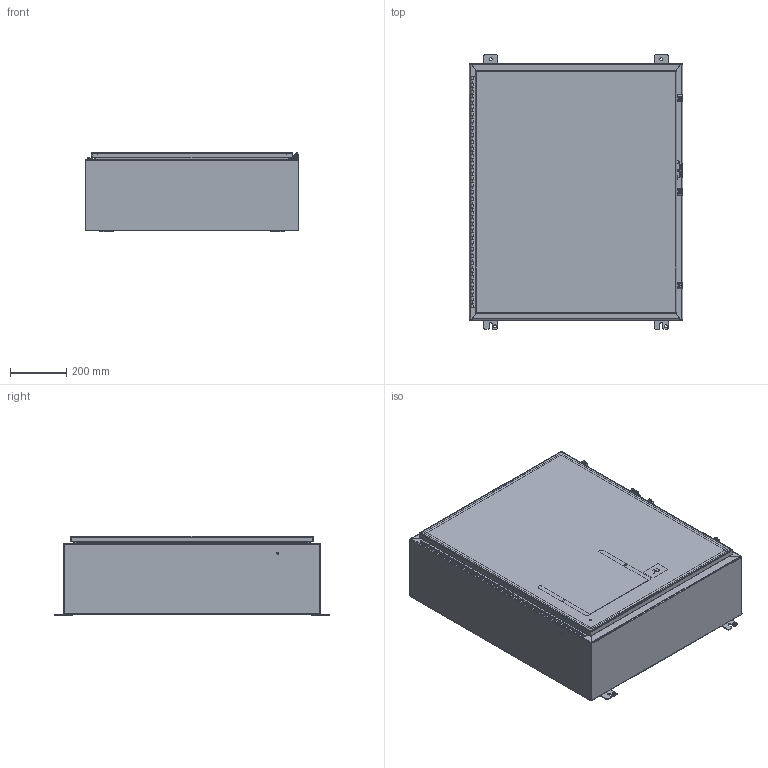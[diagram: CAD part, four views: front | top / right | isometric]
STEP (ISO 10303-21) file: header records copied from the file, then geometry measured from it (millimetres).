
FILE_DESCRIPTION((''),'2;1');
FILE_NAME('MODEL-303_ASM','2026-04-07T14:18:24',('ChadS'),('SAGINAW CONTROL & ENGINEERING'),'CREO PARAMETRIC BY PTC INC, 2021284','CREO PARAMETRIC BY PTC INC, 2021284','');
FILE_SCHEMA(('AUTOMOTIVE_DESIGN { 1 0 10303 214 1 1 1 1 }'));
Length unit declared in the file: inch
Products named in the file (30): MODEL-303-BDY; MODEL-303-TP; MODEL-303-BTM; MODEL-303-DR; 100837; 100882; 111267; 125597; 118921_DR; 118921_PIN; 118921_BX; 118921_STUD; 118921_ASM; 100897; MODEL-303-DOOR-GASKET; 128600; 102483; MODEL-303-DOOR-ASSY_ASM; 102211; 101653; 121453; 120131_BASE; 120131_CLAMP; 120131_SCREW; 120131_CLOSED_ASM; 120134; SUBPANEL; 100904; SUBPANEL-SUBASSEMBLY_ASM; MODEL-303_ASM
Assembly tree (60 placements, depth 4):
  MODEL-303_ASM
    MODEL-303-BDY
    MODEL-303-TP
    MODEL-303-BTM
    MODEL-303-DOOR-ASSY_ASM
      MODEL-303-DR
      100837  x3
      100882  x2
      111267
      125597
      118921_ASM
        118921_DR
        118921_PIN
        118921_BX
        118921_STUD  x5
      100897  x5
      MODEL-303-DOOR-GASKET
      128600
      102483
    102211  x4
    100837
    101653  x6
    121453
    120131_CLOSED_ASM  x3
      120131_BASE
      120131_CLAMP
      120131_SCREW
    100882  x4
    120134
    SUBPANEL-SUBASSEMBLY_ASM
      SUBPANEL
      100904  x6
Bounding box: 762 x 977.9 x 284.68 mm (x, y, z)
Volume: 7167452 mm3; surface area: 6548316.5 mm2
Topology: 59 solids, 59 shells, 4410 faces, 11452 edges, 7209 vertices
Faces by surface type: plane 1798, bspline 1131, cylinder 978, torus 268, sphere 127, cone 108
Entity records: 104081 total; most frequent: CARTESIAN_POINT 31803, ORIENTED_EDGE 10798, DIRECTION 9865, PRESENTATION_STYLE_ASSIGNMENT 5530, STYLED_ITEM 5528, CURVE_STYLE 5399, EDGE_CURVE 5399, VERTEX_POINT 3408
